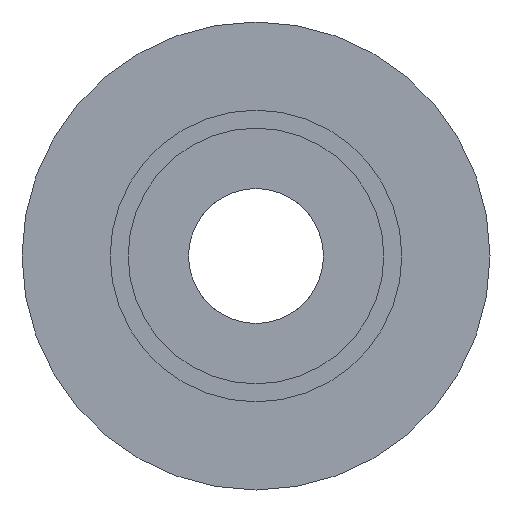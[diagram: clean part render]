
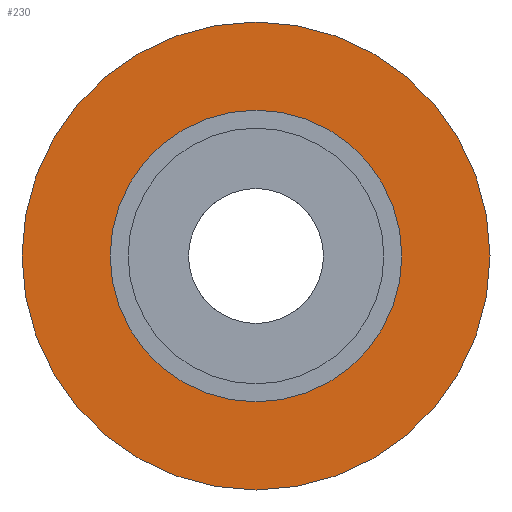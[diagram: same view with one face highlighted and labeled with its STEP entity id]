
A CAD part, left-side view. The second image highlights one B-rep face of the part: STEP entity #230.
In plain terms, the highlighted planar face has unit normal (-1, 0, 0).
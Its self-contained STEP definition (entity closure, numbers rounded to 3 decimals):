
#74 = CYLINDRICAL_SURFACE('',#75,16.2);
#75 = AXIS2_PLACEMENT_3D('',#76,#77,#78);
#76 = CARTESIAN_POINT('',(0.,0.,0.));
#77 = DIRECTION('',(1.,0.,0.));
#78 = DIRECTION('',(-0.,1.,0.));
#146 = VERTEX_POINT('',#147);
#147 = CARTESIAN_POINT('',(15.5,16.2,0.));
#168 = EDGE_CURVE('',#146,#146,#169,.T.);
#169 = SURFACE_CURVE('',#170,(#175,#182),.PCURVE_S1.);
#170 = CIRCLE('',#171,16.2);
#171 = AXIS2_PLACEMENT_3D('',#172,#173,#174);
#172 = CARTESIAN_POINT('',(15.5,0.,0.));
#173 = DIRECTION('',(1.,0.,0.));
#174 = DIRECTION('',(-0.,1.,0.));
#175 = PCURVE('',#74,#176);
#176 = DEFINITIONAL_REPRESENTATION('',(#177),#181);
#177 = LINE('',#178,#179);
#178 = CARTESIAN_POINT('',(0.,15.5));
#179 = VECTOR('',#180,1.);
#180 = DIRECTION('',(1.,0.));
#181 = ( GEOMETRIC_REPRESENTATION_CONTEXT(2) 
PARAMETRIC_REPRESENTATION_CONTEXT() REPRESENTATION_CONTEXT('2D SPACE',''
  ) );
#182 = PCURVE('',#183,#188);
#183 = PLANE('',#184);
#184 = AXIS2_PLACEMENT_3D('',#185,#186,#187);
#185 = CARTESIAN_POINT('',(15.5,0.,0.));
#186 = DIRECTION('',(1.,0.,0.));
#187 = DIRECTION('',(-0.,1.,0.));
#188 = DEFINITIONAL_REPRESENTATION('',(#189),#193);
#189 = CIRCLE('',#190,16.2);
#190 = AXIS2_PLACEMENT_2D('',#191,#192);
#191 = CARTESIAN_POINT('',(0.,0.));
#192 = DIRECTION('',(1.,-0.));
#193 = ( GEOMETRIC_REPRESENTATION_CONTEXT(2) 
PARAMETRIC_REPRESENTATION_CONTEXT() REPRESENTATION_CONTEXT('2D SPACE',''
  ) );
#230 = ADVANCED_FACE('',(#231,#234),#183,.F.);
#231 = FACE_BOUND('',#232,.T.);
#232 = EDGE_LOOP('',(#233));
#233 = ORIENTED_EDGE('',*,*,#168,.T.);
#234 = FACE_BOUND('',#235,.T.);
#235 = EDGE_LOOP('',(#236));
#236 = ORIENTED_EDGE('',*,*,#237,.F.);
#237 = EDGE_CURVE('',#238,#238,#240,.T.);
#238 = VERTEX_POINT('',#239);
#239 = CARTESIAN_POINT('',(15.5,26.,0.));
#240 = SURFACE_CURVE('',#241,(#246,#253),.PCURVE_S1.);
#241 = CIRCLE('',#242,26.);
#242 = AXIS2_PLACEMENT_3D('',#243,#244,#245);
#243 = CARTESIAN_POINT('',(15.5,0.,0.));
#244 = DIRECTION('',(1.,0.,0.));
#245 = DIRECTION('',(-0.,1.,0.));
#246 = PCURVE('',#183,#247);
#247 = DEFINITIONAL_REPRESENTATION('',(#248),#252);
#248 = CIRCLE('',#249,26.);
#249 = AXIS2_PLACEMENT_2D('',#250,#251);
#250 = CARTESIAN_POINT('',(0.,0.));
#251 = DIRECTION('',(1.,-0.));
#252 = ( GEOMETRIC_REPRESENTATION_CONTEXT(2) 
PARAMETRIC_REPRESENTATION_CONTEXT() REPRESENTATION_CONTEXT('2D SPACE',''
  ) );
#253 = PCURVE('',#254,#259);
#254 = CYLINDRICAL_SURFACE('',#255,26.);
#255 = AXIS2_PLACEMENT_3D('',#256,#257,#258);
#256 = CARTESIAN_POINT('',(15.5,0.,0.));
#257 = DIRECTION('',(1.,0.,0.));
#258 = DIRECTION('',(-0.,1.,0.));
#259 = DEFINITIONAL_REPRESENTATION('',(#260),#264);
#260 = LINE('',#261,#262);
#261 = CARTESIAN_POINT('',(0.,0.));
#262 = VECTOR('',#263,1.);
#263 = DIRECTION('',(1.,0.));
#264 = ( GEOMETRIC_REPRESENTATION_CONTEXT(2) 
PARAMETRIC_REPRESENTATION_CONTEXT() REPRESENTATION_CONTEXT('2D SPACE',''
  ) );
